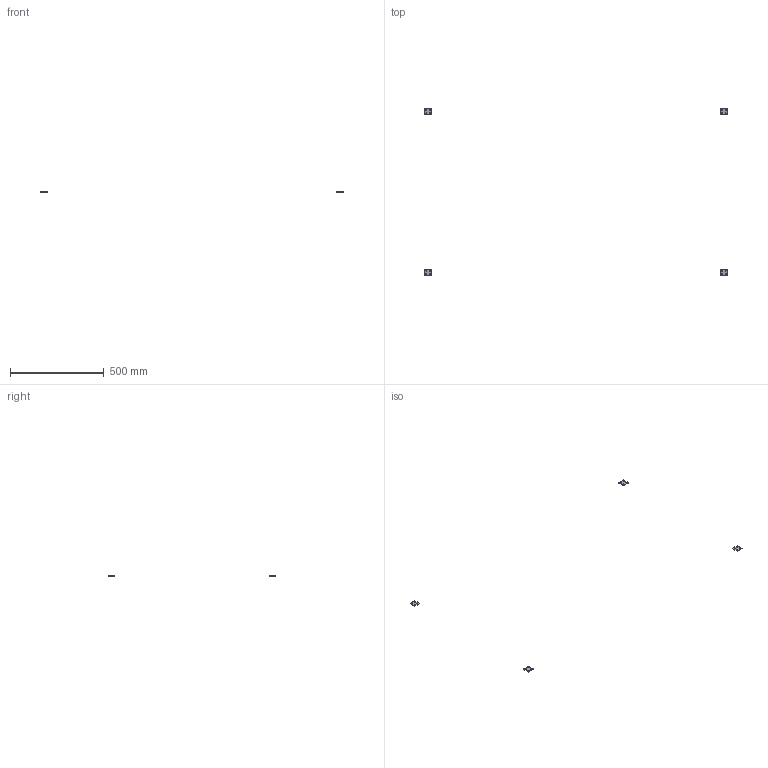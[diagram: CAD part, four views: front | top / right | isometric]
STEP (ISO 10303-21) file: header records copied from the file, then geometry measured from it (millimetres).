
FILE_DESCRIPTION(/* description */ (''),/* implementation_level */ '2;1');
FILE_NAME(/* name */ 'FRCD7D~1',/* time_stamp */ '2014-02-14T19:31:20+01:00',/* author */ (''),/* organization */ (''),/* preprocessor_version */ 'ST-DEVELOPER v14',/* originating_system */ '',/* authorisation */ '');
FILE_SCHEMA (('AUTOMOTIVE_DESIGN'));
Length unit declared in the file: millimetre
Products named in the file (2): Document; plate bracket, double
Assembly tree (2 placements, depth 2):
  Document
    plate bracket, double  x2
Bounding box: 1616 x 896 x 2.3 mm (x, y, z)
Volume: 11030.5 mm3; surface area: 11528.4 mm2
Topology: 4 solids, 4 shells, 72 faces, 192 edges, 128 vertices
Faces by surface type: bspline 48, plane 24
Entity records: 3714 total; most frequent: CARTESIAN_POINT 1823, ORIENTED_EDGE 288, PCURVE 288, DEFINITIONAL_REPRESENTATION 288, B_SPLINE_CURVE_WITH_KNOTS 288, SURFACE_CURVE 144, EDGE_CURVE 144, VERTEX_POINT 96
